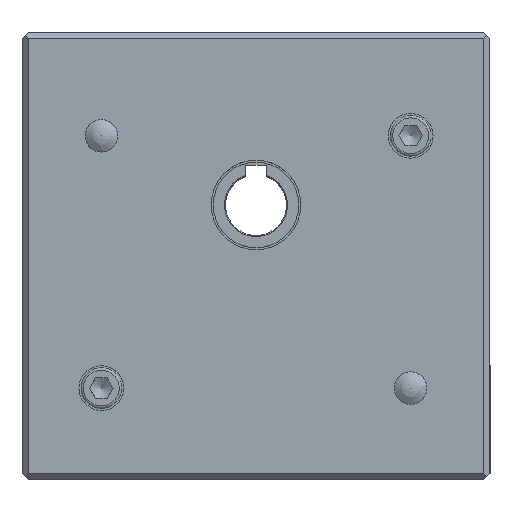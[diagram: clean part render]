
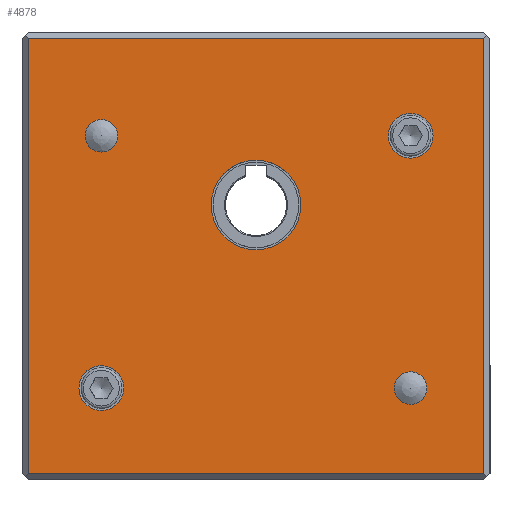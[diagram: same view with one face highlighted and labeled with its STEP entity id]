
A CAD part, top view. The second image highlights one B-rep face of the part: STEP entity #4878.
In plain terms, the highlighted planar face has unit normal (0, 0, 1).
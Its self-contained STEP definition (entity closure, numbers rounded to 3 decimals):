
#164=FACE_BOUND('',#828,.T.);
#165=FACE_BOUND('',#829,.T.);
#166=FACE_BOUND('',#830,.T.);
#167=FACE_BOUND('',#831,.T.);
#168=FACE_BOUND('',#832,.T.);
#292=PLANE('',#5505);
#534=FACE_OUTER_BOUND('',#827,.T.);
#827=EDGE_LOOP('',(#4236,#4237,#4238,#4239));
#828=EDGE_LOOP('',(#4240));
#829=EDGE_LOOP('',(#4241));
#830=EDGE_LOOP('',(#4242));
#831=EDGE_LOOP('',(#4243));
#832=EDGE_LOOP('',(#4244,#4245));
#1266=LINE('',#8191,#1735);
#1267=LINE('',#8193,#1736);
#1268=LINE('',#8195,#1737);
#1269=LINE('',#8196,#1738);
#1735=VECTOR('',#6721,107.);
#1736=VECTOR('',#6722,112.);
#1737=VECTOR('',#6723,107.);
#1738=VECTOR('',#6724,112.);
#1998=CIRCLE('',#5473,3.);
#2001=CIRCLE('',#5477,3.);
#2010=CIRCLE('',#5493,5.5);
#2016=CIRCLE('',#5502,5.5);
#2018=CIRCLE('',#5506,11.);
#2019=CIRCLE('',#5507,11.);
#2374=VERTEX_POINT('',#8063);
#2377=VERTEX_POINT('',#8071);
#2417=VERTEX_POINT('',#8164);
#2423=VERTEX_POINT('',#8181);
#2425=VERTEX_POINT('',#8189);
#2426=VERTEX_POINT('',#8190);
#2427=VERTEX_POINT('',#8192);
#2428=VERTEX_POINT('',#8194);
#2429=VERTEX_POINT('',#8197);
#2430=VERTEX_POINT('',#8198);
#2998=EDGE_CURVE('',#2374,#2374,#1998,.T.);
#3002=EDGE_CURVE('',#2377,#2377,#2001,.T.);
#3047=EDGE_CURVE('',#2417,#2417,#2010,.T.);
#3055=EDGE_CURVE('',#2423,#2423,#2016,.T.);
#3059=EDGE_CURVE('',#2425,#2426,#1266,.T.);
#3060=EDGE_CURVE('',#2425,#2427,#1267,.T.);
#3061=EDGE_CURVE('',#2427,#2428,#1268,.T.);
#3062=EDGE_CURVE('',#2428,#2426,#1269,.T.);
#3063=EDGE_CURVE('',#2429,#2430,#2018,.T.);
#3064=EDGE_CURVE('',#2430,#2429,#2019,.T.);
#4236=ORIENTED_EDGE('',*,*,#3059,.F.);
#4237=ORIENTED_EDGE('',*,*,#3060,.T.);
#4238=ORIENTED_EDGE('',*,*,#3061,.T.);
#4239=ORIENTED_EDGE('',*,*,#3062,.T.);
#4240=ORIENTED_EDGE('',*,*,#2998,.T.);
#4241=ORIENTED_EDGE('',*,*,#3002,.T.);
#4242=ORIENTED_EDGE('',*,*,#3047,.T.);
#4243=ORIENTED_EDGE('',*,*,#3055,.T.);
#4244=ORIENTED_EDGE('',*,*,#3063,.F.);
#4245=ORIENTED_EDGE('',*,*,#3064,.F.);
#4878=ADVANCED_FACE('',(#534,#164,#165,#166,#167,#168),#292,.T.);
#5473=AXIS2_PLACEMENT_3D('',#8065,#6614,#6615);
#5477=AXIS2_PLACEMENT_3D('',#8073,#6623,#6624);
#5493=AXIS2_PLACEMENT_3D('',#8165,#6691,#6692);
#5502=AXIS2_PLACEMENT_3D('',#8182,#6711,#6712);
#5505=AXIS2_PLACEMENT_3D('',#8188,#6719,#6720);
#5506=AXIS2_PLACEMENT_3D('',#8199,#6725,#6726);
#5507=AXIS2_PLACEMENT_3D('',#8200,#6727,#6728);
#6614=DIRECTION('center_axis',(0.,0.,
-1.));
#6615=DIRECTION('ref_axis',(1.,0.,0.));
#6623=DIRECTION('center_axis',(0.,0.,
-1.));
#6624=DIRECTION('ref_axis',(1.,0.,0.));
#6691=DIRECTION('center_axis',(0.,0.,
-1.));
#6692=DIRECTION('ref_axis',(-1.,0.,0.));
#6711=DIRECTION('center_axis',(0.,0.,
-1.));
#6712=DIRECTION('ref_axis',(-1.,0.,0.));
#6719=DIRECTION('center_axis',(0.,0.,
1.));
#6720=DIRECTION('ref_axis',(1.,0.,0.));
#6721=DIRECTION('',(0.,-1.,0.));
#6722=DIRECTION('',(-1.,0.,0.));
#6723=DIRECTION('',(0.,-1.,0.));
#6724=DIRECTION('',(1.,0.,0.));
#6725=DIRECTION('center_axis',(0.,0.,
1.));
#6726=DIRECTION('ref_axis',(1.,0.,0.));
#6727=DIRECTION('center_axis',(0.,0.,
1.));
#6728=DIRECTION('ref_axis',(1.,0.,0.));
#8063=CARTESIAN_POINT('',(-41.,17.,22.5));
#8065=CARTESIAN_POINT('Origin',(-38.,17.,22.5));
#8071=CARTESIAN_POINT('',(35.001,-45.,22.5));
#8073=CARTESIAN_POINT('Origin',(38.001,-45.,22.5));
#8164=CARTESIAN_POINT('',(-32.5,-45.,22.5));
#8165=CARTESIAN_POINT('Origin',(-38.,-45.,22.5));
#8181=CARTESIAN_POINT('',(43.501,17.,22.5));
#8182=CARTESIAN_POINT('Origin',(38.001,17.,22.5));
#8188=CARTESIAN_POINT('Origin',(0.122,-19.899,22.5));
#8189=CARTESIAN_POINT('',(56.001,41.,22.5));
#8190=CARTESIAN_POINT('',(56.001,-66.,22.5));
#8191=CARTESIAN_POINT('',(56.001,37.492,22.5));
#8192=CARTESIAN_POINT('',(-56.,41.,22.5));
#8193=CARTESIAN_POINT('',(57.5,41.,22.5));
#8194=CARTESIAN_POINT('',(-56.,-66.,22.5));
#8195=CARTESIAN_POINT('',(-56.,-42.95,22.5));
#8196=CARTESIAN_POINT('',(28.811,-66.,22.5));
#8197=CARTESIAN_POINT('',(11.,0.,22.5));
#8198=CARTESIAN_POINT('',(-11.,0.,22.5));
#8199=CARTESIAN_POINT('Origin',(0.,0.,
22.5));
#8200=CARTESIAN_POINT('Origin',(0.,0.,
22.5));
